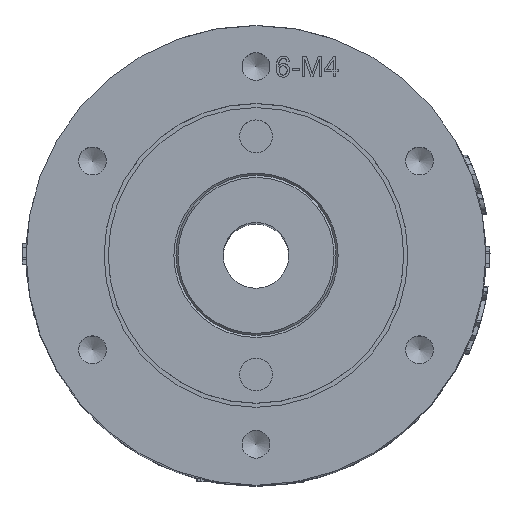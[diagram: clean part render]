
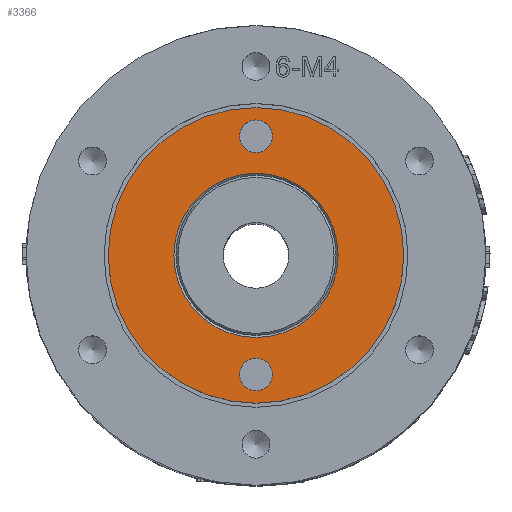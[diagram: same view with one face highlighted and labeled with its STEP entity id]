
A CAD part, top view. The second image highlights one B-rep face of the part: STEP entity #3366.
In plain terms, the highlighted planar face has unit normal (0, 0, 1).
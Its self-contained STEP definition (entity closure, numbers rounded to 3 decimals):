
#228=FACE_BOUND('',#5927,.T.);
#229=FACE_BOUND('',#5928,.T.);
#230=FACE_BOUND('',#5929,.T.);
#231=FACE_BOUND('',#5930,.T.);
#635=CIRCLE('',#20424,2.);
#637=CIRCLE('',#20428,2.);
#639=CIRCLE('',#20432,10.);
#642=CIRCLE('',#20437,18.);
#3366=ADVANCED_FACE('',(#228,#229,#230,#231),#4154,.F.);
#4154=PLANE('',#20440);
#5927=EDGE_LOOP('',(#9300));
#5928=EDGE_LOOP('',(#9301));
#5929=EDGE_LOOP('',(#9302));
#5930=EDGE_LOOP('',(#9303));
#9300=ORIENTED_EDGE('',*,*,#16371,.T.);
#9301=ORIENTED_EDGE('',*,*,#16373,.T.);
#9302=ORIENTED_EDGE('',*,*,#16375,.T.);
#9303=ORIENTED_EDGE('',*,*,#16378,.F.);
#13752=VERTEX_POINT('',#35469);
#13754=VERTEX_POINT('',#35475);
#13756=VERTEX_POINT('',#35481);
#13759=VERTEX_POINT('',#35489);
#16371=EDGE_CURVE('',#13752,#13752,#635,.T.);
#16373=EDGE_CURVE('',#13754,#13754,#637,.T.);
#16375=EDGE_CURVE('',#13756,#13756,#639,.T.);
#16378=EDGE_CURVE('',#13759,#13759,#642,.T.);
#20424=AXIS2_PLACEMENT_3D('',#35468,#22414,#22415);
#20428=AXIS2_PLACEMENT_3D('',#35474,#22422,#22423);
#20432=AXIS2_PLACEMENT_3D('',#35480,#22430,#22431);
#20437=AXIS2_PLACEMENT_3D('',#35488,#22440,#22441);
#20440=AXIS2_PLACEMENT_3D('',#35493,#22446,#22447);
#22414=DIRECTION('',(0.,0.,-1.));
#22415=DIRECTION('',(-1.,0.,0.));
#22422=DIRECTION('',(0.,0.,-1.));
#22423=DIRECTION('',(-1.,0.,0.));
#22430=DIRECTION('',(0.,0.,-1.));
#22431=DIRECTION('',(-1.,0.,0.));
#22440=DIRECTION('',(0.,0.,-1.));
#22441=DIRECTION('',(-1.,0.,0.));
#22446=DIRECTION('',(0.,0.,-1.));
#22447=DIRECTION('',(-1.,0.,0.));
#35468=CARTESIAN_POINT('',(0.,14.5,107.5));
#35469=CARTESIAN_POINT('',(-2.,14.5,107.5));
#35474=CARTESIAN_POINT('',(0.,-14.5,107.5));
#35475=CARTESIAN_POINT('',(-2.,-14.5,107.5));
#35480=CARTESIAN_POINT('',(0.,0.,107.5));
#35481=CARTESIAN_POINT('',(-10.,0.,107.5));
#35488=CARTESIAN_POINT('',(0.,0.,107.5));
#35489=CARTESIAN_POINT('',(-18.,0.,107.5));
#35493=CARTESIAN_POINT('',(0.,0.,107.5));
